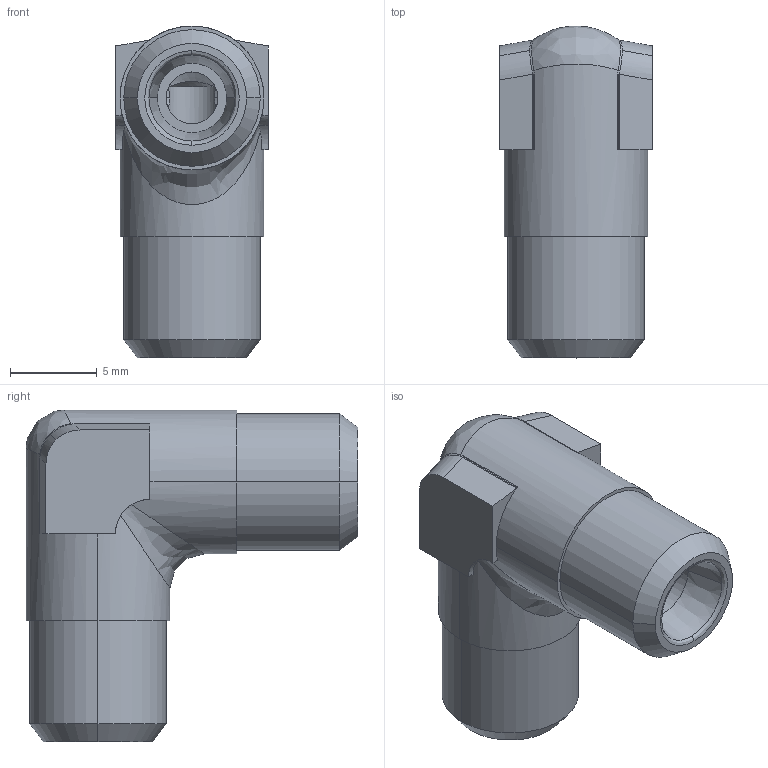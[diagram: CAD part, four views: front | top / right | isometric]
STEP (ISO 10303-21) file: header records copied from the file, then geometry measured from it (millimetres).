
FILE_DESCRIPTION((''),'2;1');
FILE_NAME('103801.stp','2007-10-31T11:54:43',(''),(''),'AutoCAD STEP 2000i','AutoCAD 2000i',', , ');
FILE_SCHEMA(('CONFIG_CONTROL_DESIGN'));
Length unit declared in the file: millimetre
Products named in the file (2): 103801.0; 1090#0
Assembly tree (1 placements, depth 2):
  103801.0
    1090#0
Bounding box: 8.8 x 19.15 x 19.15 mm (x, y, z)
Volume: 1299.6 mm3; surface area: 1158 mm2
Topology: 1 solids, 1 shells, 86 faces, 202 edges, 122 vertices
Faces by surface type: cylinder 40, cone 18, plane 16, bspline 12
Entity records: 3429 total; most frequent: CARTESIAN_POINT 1365, DIRECTION 426, ORIENTED_EDGE 404, EDGE_CURVE 202, AXIS2_PLACEMENT_3D 179, VERTEX_POINT 122, EDGE_LOOP 92, CIRCLE 88
